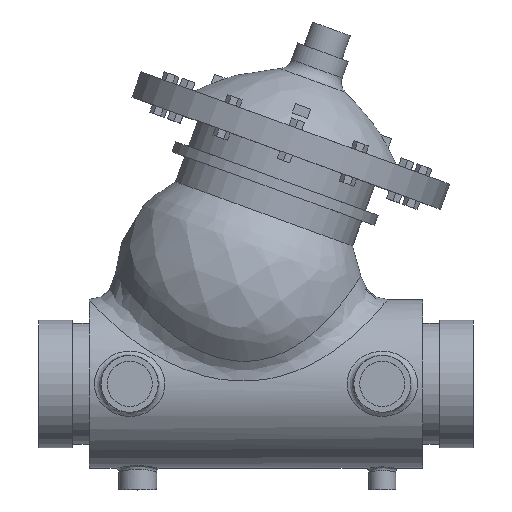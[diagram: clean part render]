
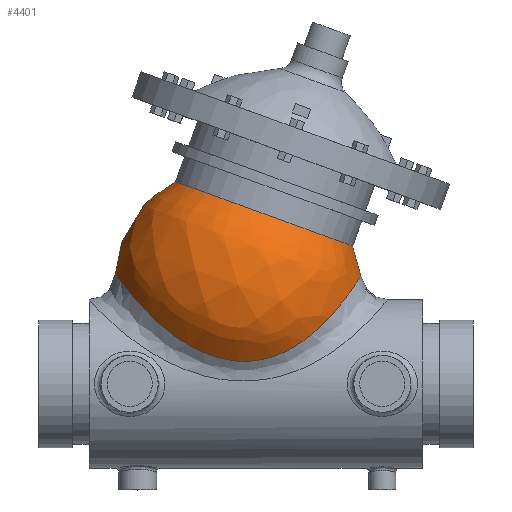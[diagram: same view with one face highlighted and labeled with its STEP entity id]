
A CAD part, top view. The second image highlights one B-rep face of the part: STEP entity #4401.
In plain terms, the highlighted free-form (B-spline) face has degree [2, 2] with [3, 9] control points.
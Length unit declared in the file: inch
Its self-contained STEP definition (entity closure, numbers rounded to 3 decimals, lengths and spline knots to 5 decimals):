
#252=(
BOUNDED_CURVE()
B_SPLINE_CURVE(2,(#6572,#6573,#6574),.UNSPECIFIED.,.F.,.F.)
B_SPLINE_CURVE_WITH_KNOTS((3,3),(-0.76474,0.79236),
 .UNSPECIFIED.)
CURVE()
GEOMETRIC_REPRESENTATION_ITEM()
RATIONAL_B_SPLINE_CURVE((1.,0.711,0.999))
REPRESENTATION_ITEM('')
);
#255=(
BOUNDED_SURFACE()
B_SPLINE_SURFACE(2,2,((#6540,#6541,#6542,#6543,#6544,#6545,#6546,#6547,
#6548),(#6549,#6550,#6551,#6552,#6553,#6554,#6555,#6556,#6557),(#6558,#6559,
#6560,#6561,#6562,#6563,#6564,#6565,#6566)),.UNSPECIFIED.,.F.,.T.,.F.)
B_SPLINE_SURFACE_WITH_KNOTS((3,3),(3,2,2,2,3),(-0.79521,0.76474),
(-3.14159,-1.5708,0.,1.5708,3.14159),
 .UNSPECIFIED.)
GEOMETRIC_REPRESENTATION_ITEM()
RATIONAL_B_SPLINE_SURFACE(((1.,0.707,1.,0.707,1.,
0.707,1.,0.707,1.),(0.711,0.503,
0.711,0.503,0.711,0.503,
0.711,0.503,0.711),(1.,0.707,
1.,0.707,1.,0.707,1.,0.707,1.)))
REPRESENTATION_ITEM('')
SURFACE()
);
#1287=FACE_OUTER_BOUND('',#1529,.T.);
#1529=EDGE_LOOP('',(#2973,#2974,#2975,#2976,#2977,#2978,#2979));
#1812=CIRCLE('',#4663,1.75);
#1813=CIRCLE('',#4664,1.75);
#1814=CIRCLE('',#4665,1.75);
#1890=B_SPLINE_CURVE_WITH_KNOTS('',3,(#6342,#6343,#6344,#6345,#6346,#6347,
#6348,#6349,#6350,#6351,#6352,#6353,#6354,#6355,#6356,#6357,#6358,#6359,
#6360,#6361,#6362,#6363,#6364,#6365,#6366,#6367,#6368,#6369),
 .UNSPECIFIED.,.F.,.F.,(4,1,1,1,1,1,1,1,1,1,1,1,1,1,1,1,1,1,1,1,1,1,1,1,
1,4),(0.,1.22247,2.44494,3.66741,4.88987,
6.24817,6.51983,8.14979,9.77975,10.59473,
11.40971,12.22469,13.03966,14.66962,16.29958,
17.92954,19.5595,20.37448,21.18946,22.00443,
22.81941,24.44937,25.67184,26.89431,28.11678,
28.35717),.UNSPECIFIED.);
#1891=B_SPLINE_CURVE_WITH_KNOTS('',3,(#6370,#6371,#6372,#6373,#6374,#6375,
#6376,#6377),.UNSPECIFIED.,.F.,.F.,(4,1,1,1,1,4),(28.35717,29.33925,
30.56171,31.78418,33.00665,34.22912),
 .UNSPECIFIED.);
#1931=VERTEX_POINT('',#6339);
#1932=VERTEX_POINT('',#6341);
#1946=VERTEX_POINT('',#6567);
#1947=VERTEX_POINT('',#6568);
#1948=VERTEX_POINT('',#6570);
#2343=EDGE_CURVE('',#1931,#1932,#1890,.T.);
#2344=EDGE_CURVE('',#1932,#1931,#1891,.T.);
#2363=EDGE_CURVE('',#1946,#1947,#1812,.T.);
#2364=EDGE_CURVE('',#1948,#1946,#1813,.T.);
#2365=EDGE_CURVE('',#1948,#1932,#252,.T.);
#2366=EDGE_CURVE('',#1947,#1948,#1814,.T.);
#2973=ORIENTED_EDGE('',*,*,#2363,.F.);
#2974=ORIENTED_EDGE('',*,*,#2364,.F.);
#2975=ORIENTED_EDGE('',*,*,#2365,.T.);
#2976=ORIENTED_EDGE('',*,*,#2343,.F.);
#2977=ORIENTED_EDGE('',*,*,#2344,.F.);
#2978=ORIENTED_EDGE('',*,*,#2365,.F.);
#2979=ORIENTED_EDGE('',*,*,#2366,.F.);
#4401=ADVANCED_FACE('',(#1287),#255,.F.);
#4663=AXIS2_PLACEMENT_3D('',#6569,#4997,#4998);
#4664=AXIS2_PLACEMENT_3D('',#6571,#4999,#5000);
#4665=AXIS2_PLACEMENT_3D('',#6575,#5001,#5002);
#4997=DIRECTION('center_axis',(0.342,0.94,0.));
#4998=DIRECTION('ref_axis',(0.94,-0.342,0.));
#4999=DIRECTION('center_axis',(0.342,0.94,0.));
#5000=DIRECTION('ref_axis',(0.94,-0.342,0.));
#5001=DIRECTION('center_axis',(0.342,0.94,0.));
#5002=DIRECTION('ref_axis',(0.94,-0.342,0.));
#6339=CARTESIAN_POINT('',(1.43538,1.31183,-1.38833));
#6341=CARTESIAN_POINT('',(-0.81123,0.51863,-1.71082));
#6342=CARTESIAN_POINT('Ctrl Pts',(1.43538,1.31183,-1.38833));
#6343=CARTESIAN_POINT('Ctrl Pts',(1.53852,1.4295,-1.30241));
#6344=CARTESIAN_POINT('Ctrl Pts',(1.71716,1.65886,-1.0868));
#6345=CARTESIAN_POINT('Ctrl Pts',(1.8922,1.91766,-0.63531));
#6346=CARTESIAN_POINT('Ctrl Pts',(1.96441,2.03256,-0.09695));
#6347=CARTESIAN_POINT('Ctrl Pts',(1.92785,1.97382,0.47662));
#6348=CARTESIAN_POINT('Ctrl Pts',(1.8141,1.80002,0.85285));
#6349=CARTESIAN_POINT('Ctrl Pts',(1.62731,1.54121,1.21099));
#6350=CARTESIAN_POINT('Ctrl Pts',(1.35567,1.19711,1.50271));
#6351=CARTESIAN_POINT('Ctrl Pts',(0.92288,0.8042,1.64914));
#6352=CARTESIAN_POINT('Ctrl Pts',(0.50996,0.56806,1.69485));
#6353=CARTESIAN_POINT('Ctrl Pts',(0.1696,0.44905,1.70804));
#6354=CARTESIAN_POINT('Ctrl Pts',(-0.19126,0.40458,
1.71336));
#6355=CARTESIAN_POINT('Ctrl Pts',(-0.67933,0.45083,1.71666));
#6356=CARTESIAN_POINT('Ctrl Pts',(-1.25615,0.68338,1.70161));
#6357=CARTESIAN_POINT('Ctrl Pts',(-1.83255,1.12075,1.56228));
#6358=CARTESIAN_POINT('Ctrl Pts',(-2.27743,1.59961,1.22171));
#6359=CARTESIAN_POINT('Ctrl Pts',(-2.51432,1.9137,0.74204));
#6360=CARTESIAN_POINT('Ctrl Pts',(-2.60396,2.03885,0.27748));
#6361=CARTESIAN_POINT('Ctrl Pts',(-2.61801,2.05908,-0.08864));
#6362=CARTESIAN_POINT('Ctrl Pts',(-2.57807,2.00226,-0.44871));
#6363=CARTESIAN_POINT('Ctrl Pts',(-2.45561,1.83423,-0.8913));
#6364=CARTESIAN_POINT('Ctrl Pts',(-2.21078,1.52243,-1.28178));
#6365=CARTESIAN_POINT('Ctrl Pts',(-1.82782,1.12823,-1.54508));
#6366=CARTESIAN_POINT('Ctrl Pts',(-1.40836,0.79549,-1.67036));
#6367=CARTESIAN_POINT('Ctrl Pts',(-1.0521,0.60484,-1.70249));
#6368=CARTESIAN_POINT('Ctrl Pts',(-0.84547,0.53008,
-1.70984));
#6369=CARTESIAN_POINT('Ctrl Pts',(-0.81123,0.51865,
-1.71082));
#6370=CARTESIAN_POINT('Ctrl Pts',(-0.81123,0.51865,
-1.71082));
#6371=CARTESIAN_POINT('Ctrl Pts',(-0.67134,0.47194,
-1.71482));
#6372=CARTESIAN_POINT('Ctrl Pts',(-0.34658,0.39895,
-1.7152));
#6373=CARTESIAN_POINT('Ctrl Pts',(0.16788,0.4314,-1.7094));
#6374=CARTESIAN_POINT('Ctrl Pts',(0.67011,0.63712,-1.68785));
#6375=CARTESIAN_POINT('Ctrl Pts',(1.09831,0.95281,-1.60246));
#6376=CARTESIAN_POINT('Ctrl Pts',(1.33225,1.19416,-1.47426));
#6377=CARTESIAN_POINT('Ctrl Pts',(1.43538,1.31183,-1.38833));
#6540=CARTESIAN_POINT('Ctrl Pts',(-0.81247,0.51523,-1.70715));
#6541=CARTESIAN_POINT('Ctrl Pts',(-2.41667,1.09911,-1.70715));
#6542=CARTESIAN_POINT('Ctrl Pts',(-2.41667,1.09911,0.));
#6543=CARTESIAN_POINT('Ctrl Pts',(-2.41667,1.09911,1.70715));
#6544=CARTESIAN_POINT('Ctrl Pts',(-0.81247,0.51523,
1.70715));
#6545=CARTESIAN_POINT('Ctrl Pts',(0.79172,-0.06865,
1.70715));
#6546=CARTESIAN_POINT('Ctrl Pts',(0.79172,-0.06865,
0.));
#6547=CARTESIAN_POINT('Ctrl Pts',(0.79172,-0.06865,
-1.70715));
#6548=CARTESIAN_POINT('Ctrl Pts',(-0.81247,0.51523,-1.70715));
#6549=CARTESIAN_POINT('Ctrl Pts',(-0.33872,1.81686,-3.11977));
#6550=CARTESIAN_POINT('Ctrl Pts',(-3.27034,2.88389,-3.11977));
#6551=CARTESIAN_POINT('Ctrl Pts',(-3.27034,2.88389,0.));
#6552=CARTESIAN_POINT('Ctrl Pts',(-3.27034,2.88389,3.11977));
#6553=CARTESIAN_POINT('Ctrl Pts',(-0.33872,1.81686,3.11977));
#6554=CARTESIAN_POINT('Ctrl Pts',(2.59291,0.74984,3.11977));
#6555=CARTESIAN_POINT('Ctrl Pts',(2.59291,0.74984,0.));
#6556=CARTESIAN_POINT('Ctrl Pts',(2.59291,0.74984,-3.11977));
#6557=CARTESIAN_POINT('Ctrl Pts',(-0.33872,1.81686,-3.11977));
#6558=CARTESIAN_POINT('Ctrl Pts',(0.14954,3.15833,-1.75));
#6559=CARTESIAN_POINT('Ctrl Pts',(-1.49493,3.75686,-1.75));
#6560=CARTESIAN_POINT('Ctrl Pts',(-1.49493,3.75686,0.));
#6561=CARTESIAN_POINT('Ctrl Pts',(-1.49493,3.75686,1.75));
#6562=CARTESIAN_POINT('Ctrl Pts',(0.14954,3.15833,1.75));
#6563=CARTESIAN_POINT('Ctrl Pts',(1.794,2.55979,1.75));
#6564=CARTESIAN_POINT('Ctrl Pts',(1.794,2.55979,0.));
#6565=CARTESIAN_POINT('Ctrl Pts',(1.794,2.55979,-1.75));
#6566=CARTESIAN_POINT('Ctrl Pts',(0.14954,3.15833,-1.75));
#6567=CARTESIAN_POINT('',(-1.49493,3.75686,0.));
#6568=CARTESIAN_POINT('',(1.794,2.55979,0.));
#6569=CARTESIAN_POINT('Origin',(0.14954,3.15833,0.));
#6570=CARTESIAN_POINT('',(0.14954,3.15833,-1.75));
#6571=CARTESIAN_POINT('Origin',(0.14954,3.15833,0.));
#6572=CARTESIAN_POINT('Ctrl Pts',(0.14954,3.15833,-1.75));
#6573=CARTESIAN_POINT('Ctrl Pts',(-0.33746,1.82031,-3.11625));
#6574=CARTESIAN_POINT('Ctrl Pts',(-0.81124,0.51862,
-1.71082));
#6575=CARTESIAN_POINT('Origin',(0.14954,3.15833,0.));
